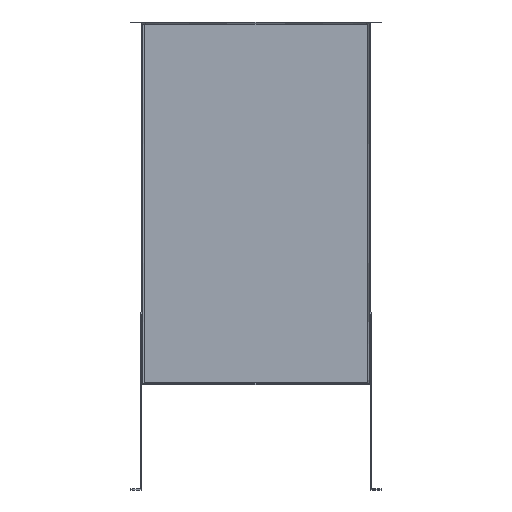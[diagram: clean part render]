
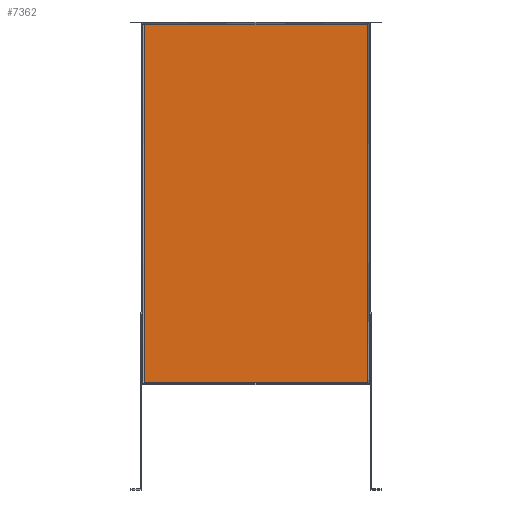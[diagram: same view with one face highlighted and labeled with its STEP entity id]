
A CAD part, front view. The second image highlights one B-rep face of the part: STEP entity #7362.
In plain terms, the highlighted free-form (B-spline) face has degree [1, 1] with [2, 2] control points.
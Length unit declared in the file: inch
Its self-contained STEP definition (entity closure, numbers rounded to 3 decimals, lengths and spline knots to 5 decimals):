
#4955=CARTESIAN_POINT('V159',(0.162,1.18784,
   -27.21198));
#4956=VERTEX_POINT('V159',#4955);
#4957=CARTESIAN_POINT('V160',(0.162,1.18784,
   0.));
#4958=VERTEX_POINT('V160',#4957);
#4959=CARTESIAN_POINT('E169',(0.162,1.18784,
   -27.21198));
#4960=CARTESIAN_POINT('E169',(0.162,1.18784,
   0.));
#4961=B_SPLINE_CURVE_WITH_KNOTS('E169',1,(#4959,#4960),
   .POLYLINE_FORM.,.F.,.U.,(2,2),(0.05357,
   0.94397),.UNSPECIFIED.);
#4962=EDGE_CURVE('E169',#4956,#4958,#4961,.T.);
#5235=CARTESIAN_POINT('V153',(17.16083,1.18784,
   -27.21198));
#5236=VERTEX_POINT('V153',#5235);
#5250=CARTESIAN_POINT('E173',(17.16083,1.18784,
   -27.21198));
#5251=CARTESIAN_POINT('E173',(0.162,1.18784,
   -27.21198));
#5252=B_SPLINE_CURVE_WITH_KNOTS('E173',1,(#5250,#5251),
   .POLYLINE_FORM.,.F.,.U.,(2,2),(0.06192,
   0.93808),.UNSPECIFIED.);
#5253=EDGE_CURVE('E173',#5236,#4956,#5252,.T.);
#6962=CARTESIAN_POINT('V155',(17.16083,1.18784,
   0.));
#6963=VERTEX_POINT('V155',#6962);
#6977=CARTESIAN_POINT('E164',(17.16083,1.18784,
   0.));
#6978=CARTESIAN_POINT('E164',(17.16083,1.18784,
   -27.21198));
#6979=B_SPLINE_CURVE_WITH_KNOTS('E164',1,(#6977,#6978),
   .POLYLINE_FORM.,.F.,.U.,(2,2),(0.05603,
   0.94643),.UNSPECIFIED.);
#6980=EDGE_CURVE('E164',#6963,#5236,#6979,.T.);
#7004=CARTESIAN_POINT('V265',(17.32283,1.18784,
   0.));
#7005=VERTEX_POINT('V265',#7004);
#7011=CARTESIAN_POINT('E284',(17.16083,1.18784,
   0.0));
#7012=CARTESIAN_POINT('E284',(17.32283,1.18784,
   0.0));
#7013=B_SPLINE_CURVE_WITH_KNOTS('E284',1,(#7011,#7012),
   .POLYLINE_FORM.,.F.,.U.,(2,2),(0.93808,
   0.94643),.UNSPECIFIED.);
#7014=EDGE_CURVE('E284',#6963,#7005,#7013,.T.);
#7316=CARTESIAN_POINT('V266',(0.,1.18784,0.0)
   );
#7317=VERTEX_POINT('V266',#7316);
#7318=CARTESIAN_POINT('E283',(0.,1.18784,0.0)
   );
#7319=CARTESIAN_POINT('E283',(0.162,1.18784,
   0.0));
#7320=B_SPLINE_CURVE_WITH_KNOTS('E283',1,(#7318,#7319),
   .POLYLINE_FORM.,.F.,.U.,(2,2),(0.05357,
   0.06192),.UNSPECIFIED.);
#7321=EDGE_CURVE('E283',#7317,#4958,#7320,.T.);
#7331=CARTESIAN_POINT('F35',(-1.03937,1.18784,
   1.65569));
#7332=CARTESIAN_POINT('F35',(-1.03937,1.18784,
   -28.846));
#7333=CARTESIAN_POINT('F35',(18.3622,1.18784,
   1.65569));
#7334=CARTESIAN_POINT('F35',(18.3622,1.18784,
   -28.846));
#7335=B_SPLINE_SURFACE_WITH_KNOTS('F35',1,1,((#7331,#7333),(#7332,
   #7334)),.PLANE_SURF.,.F.,.F.,.U.,(2,2),(2,2),(0.0,
   1.57205),(0.0,1.0),.UNSPECIFIED.);
#7336=CARTESIAN_POINT('V264',(0.,1.18784,
   0.02167));
#7337=VERTEX_POINT('V264',#7336);
#7338=CARTESIAN_POINT('V263',(17.32283,1.18784,
   0.02167));
#7339=VERTEX_POINT('V263',#7338);
#7340=CARTESIAN_POINT('E280',(0.,1.18784,
   0.02167));
#7341=CARTESIAN_POINT('E280',(17.32283,1.18784,
   0.02167));
#7342=QUASI_UNIFORM_CURVE('E280',1,(#7340,#7341),.POLYLINE_FORM.,.F.,
   .U.);
#7343=EDGE_CURVE('E280',#7337,#7339,#7342,.T.);
#7344=ORIENTED_EDGE('E280',*,*,#7343,.F.);
#7345=CARTESIAN_POINT('E282',(0.,1.18784,
   0.02167));
#7346=CARTESIAN_POINT('E282',(0.,1.18784,
   0.));
#7347=B_SPLINE_CURVE_WITH_KNOTS('E282',1,(#7345,#7346),
   .POLYLINE_FORM.,.F.,.U.,(2,2),(0.08422,
   0.08533),.UNSPECIFIED.);
#7348=EDGE_CURVE('E282',#7337,#7317,#7347,.T.);
#7349=ORIENTED_EDGE('E282',*,*,#7348,.T.);
#7350=ORIENTED_EDGE('E283',*,*,#7321,.T.);
#7351=ORIENTED_EDGE('E169',*,*,#4962,.F.);
#7352=ORIENTED_EDGE('F29',*,*,#5253,.F.);
#7353=ORIENTED_EDGE('E164',*,*,#6980,.F.);
#7354=ORIENTED_EDGE('E284',*,*,#7014,.T.);
#7355=CARTESIAN_POINT('E281',(17.32283,1.18784,
   0.));
#7356=CARTESIAN_POINT('E281',(17.32283,1.18784,
   0.02167));
#7357=B_SPLINE_CURVE_WITH_KNOTS('E281',1,(#7355,#7356),
   .POLYLINE_FORM.,.F.,.U.,(2,2),(0.08416,
   0.08528),.UNSPECIFIED.);
#7358=EDGE_CURVE('E281',#7005,#7339,#7357,.T.);
#7359=ORIENTED_EDGE('E281',*,*,#7358,.T.);
#7360=EDGE_LOOP('F35',(#7344,#7349,#7350,#7351,#7352,#7353,#7354,
   #7359));
#7361=FACE_OUTER_BOUND('F35',#7360,.T.);
#7362=ADVANCED_FACE('F35',(#7361),#7335,.T.);
